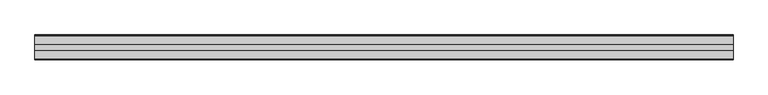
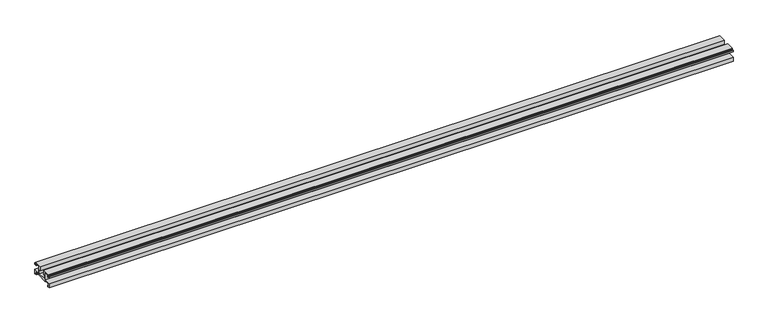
"""IFC4 building model written with IfcOpenShell, lengths in millimetres: proxy geometry, Weiku - Montante - Acoplamento vidro : Weiku - Montante - Acoplamento vidro."""

from ifc_helpers import new_model, si_unit, frame, origin, place, context, project, spatial, polyline, outline, extrude, source, transform, mapped, element, save


def generic_models_cc981c20(model_context):
    return source(origin(), model_context, "Body", "SweptSolid", [
        extrude(outline(polyline([(-35.405, 5.1494), (-35.405, 6.8004), (-45.741, 6.8004), (-45.741, 2.6094), (-43.8784, 2.6094), (-43.8784, 0.0), (-47.9014508, 0.0), (-47.9014508, 8.79), (-34.946, 8.79), (-34.946, 23.3104), (-43.5397, 23.3104), (-43.5397, 19.204), (-47.9, 19.204), (-47.9, 22.8024), (-46.9264, 22.8024), (-46.9264, 20.3894), (-44.725, 20.3894), (-44.725, 23.9454), (-45.5264504, 23.9454), (-45.5264504, 25.3), (-30.4164, 25.3), (-30.4164, 16.283), (-32.4484, 16.283), (-32.4484, 8.8), (-15.4516, 8.8), (-15.4516, 16.283), (-17.4836, 16.283), (-17.4836, 25.3), (-2.3735496, 25.3), (-2.3735496, 23.9454), (-3.175, 23.9454), (-3.175, 20.3894), (-0.9736, 20.3894), (-0.9736, 22.8024), (0.0, 22.8024), (0.0, 19.204), (-4.3603, 19.204), (-4.3603, 23.3104), (-12.954, 23.3104), (-12.954, 8.79), (0.0014508, 8.79), (0.0014508, 0.0), (-4.0216, 0.0), (-4.0216, 2.6094), (-2.159, 2.6094), (-2.159, 6.8004), (-12.495, 6.8004), (-12.495, 5.1494), (-35.405, 5.1494)])), frame((-666.8166667, 0.0, 0.0), z_axis=(1.0, 0.0, 0.0), x_axis=(0.0, 1.0, 0.0)), (0.0, 0.0, 1.0), 1333.6333333),
    ])


if __name__ == "__main__":
    model = new_model("IFC4")
    model_context = context("Model", 3, world=origin())
    ifc_project = project(units=[si_unit("LENGTHUNIT", "METRE", prefix="MILLI")], contexts=[model_context])
    site = spatial("IfcSite", under=ifc_project)
    building = spatial("IfcBuilding", under=site)
    placement = place(None, origin())
    generic_models_shape = generic_models_cc981c20(model_context)
    element("IfcBuildingElementProxy", 1, Name="Weiku - Montante - Acoplamento vidro : Weiku - Montante - Acoplamento vidro", ObjectType="Weiku - Montante - Acoplamento vidro : Weiku - Montante - Acoplamento vidro", at=placement, inside=building, context=model_context, shape_type="MappedRepresentation", body=[
        mapped(generic_models_shape, transform((0.0, 0.0, 0.0), x_axis=(1.0, 0.0, 0.0), y_axis=(0.0, 1.0, 0.0), z_axis=(0.0, 0.0, 1.0))),
    ])
    save(model, "model.ifc")
